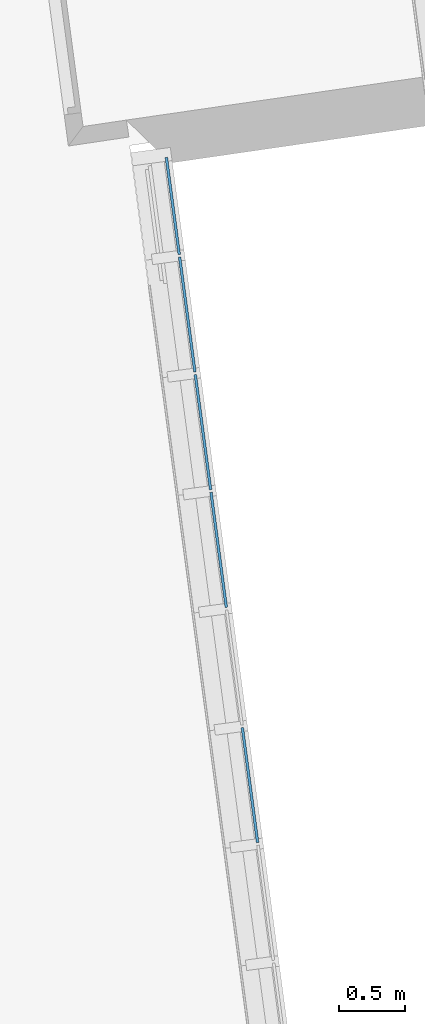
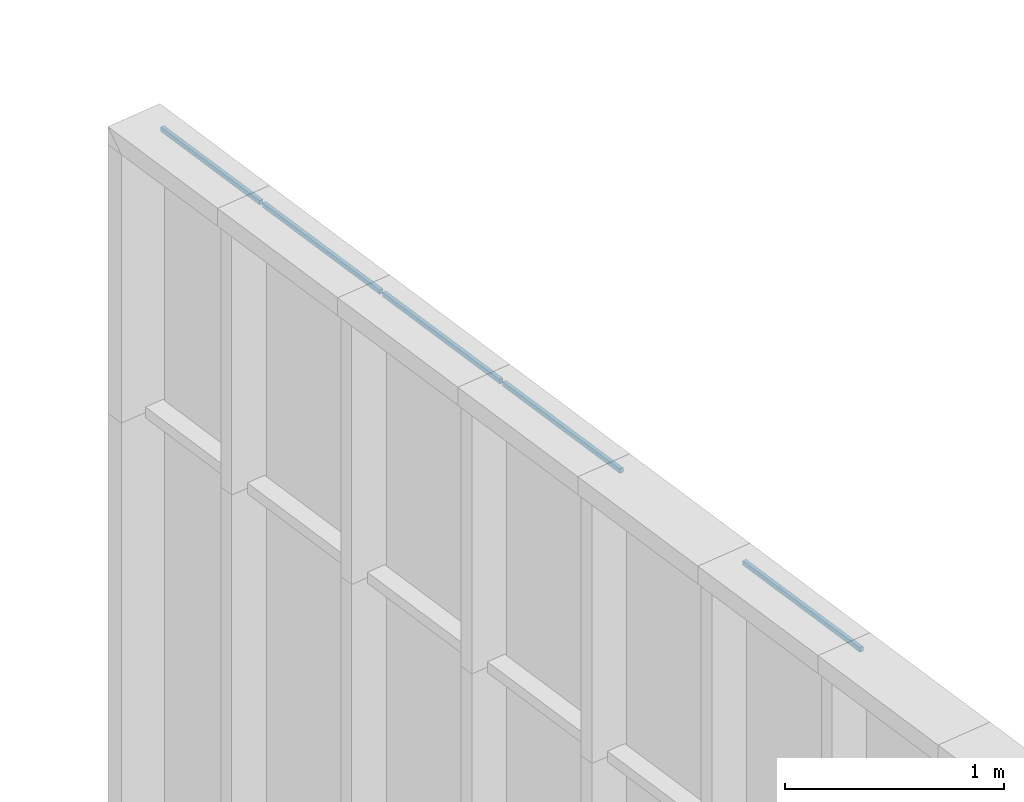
# One storey, part 6 of 17: 5 plates, 1 element without a shape of its own.
"""IFC2X3 building model written with IfcOpenShell, lengths in metres."""

from ifc_helpers import new_model, entity, si_unit, converted_unit, money_unit, direction, frame, origin_with_axes, place, context, subcontext, project, spatial, polyline, outline, extrude, material, type_object, element, aggregate, save


model = new_model("IFC2X3")

# Units and contexts
model_context = context("Model", 3, precision=1e-05, world=origin_with_axes(), true_north=direction((0.0, 1.0)))
body_context = subcontext(model_context, "Body", "Model", "MODEL_VIEW")
ifc_project = project(units=[si_unit("LENGTHUNIT", "METRE"), si_unit("AREAUNIT", "SQUARE_METRE"), si_unit("VOLUMEUNIT", "CUBIC_METRE"), converted_unit("PLANEANGLEUNIT", "DEGREE", entity("IfcPlaneAngleMeasure", 0.0174532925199), si_unit("PLANEANGLEUNIT", "RADIAN"), dimensions=[0, 0, 0, 0, 0, 0, 0]), si_unit("SOLIDANGLEUNIT", "STERADIAN"), money_unit("EUR"), converted_unit("TIMEUNIT", "Year", entity("IfcTimeMeasure", 31556926.0), si_unit("TIMEUNIT", "SECOND"), dimensions=[0, 0, 0, 0, 0, 0, 0]), si_unit("MASSUNIT", "GRAM"), si_unit("THERMODYNAMICTEMPERATUREUNIT", "DEGREE_CELSIUS"), si_unit("LUMINOUSINTENSITYUNIT", "LUMEN")], contexts=[model_context])

# Site, building, storey
site_placement = place(None, origin_with_axes())
site = spatial("IfcSite", under=ifc_project, at=site_placement, Name="Undefined", CompositionType="ELEMENT")
building_placement = place(site_placement, origin_with_axes())
building = spatial("IfcBuilding", under=site, at=building_placement, Name="Undefined", CompositionType="ELEMENT")
storey_placement = place(building_placement, frame((0.0, 0.0, 9.425), z_axis=(0.0, 0.0, 1.0), x_axis=(1.0, 0.0, 0.0)))
storey = spatial("IfcBuildingStorey", under=building, at=storey_placement, Name="Mezzannine", CompositionType="ELEMENT", Elevation=9.425)

# Curtain wall, plates
curtain_wall_type = type_object("IfcCurtainWallType", Name="Type de mur-rideau", PredefinedType="NOTDEFINED")
curtain_wall_placement = place(storey_placement, frame((66.1412459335, 18.707491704, -9.32500003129), z_axis=(0.0, 0.0, 1.0), x_axis=(1.0, 0.0, 0.0)))
curtain_wall = element("IfcCurtainWall", 1, at=curtain_wall_placement, inside=storey, type_object=curtain_wall_type, Name="CurtainWall_02", ObjectType="CURTAIN WALL")
ifc_material = material(Name="Background 7019220")
plate_type_1 = type_object("IfcPlateType", Name="Panneau secondaire 880 x 25 x 20", PredefinedType="NOTDEFINED")
plate_1_placement = place(curtain_wall_placement, frame((0.475530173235, -3.56845499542, 4.25000001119), z_axis=(0.0, 0.0, 1.0), x_axis=(0.132091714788, -0.991237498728, 0.0)))
plate_1 = element("IfcPlate", 2, at=plate_1_placement, type_object=plate_type_1, material=ifc_material, Name="Panel-Dist-197", context=body_context, shape_type="SweptSolid", body=[
    extrude(outline(polyline([(0.01, 0.005), (0.89, 0.005), (0.89, 0.0299999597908), (0.01, 0.0299999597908), (0.01, 0.005)])), frame((0.45, 0.0, -0.0499999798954), z_axis=(0.0, 1.0, 0.0), x_axis=(-1.0, 0.0, 0.0)), (0.0, 0.0, 1.0), 0.02),
])
plate_2_placement = place(curtain_wall_placement, frame((0.237765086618, -1.78422749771, 4.25000001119), z_axis=(0.0, 0.0, 1.0), x_axis=(0.132091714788, -0.991237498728, 0.0)))
plate_2 = element("IfcPlate", 3, at=plate_2_placement, type_object=plate_type_1, material=ifc_material, Name="Panel-Dist-199", context=body_context, shape_type="SweptSolid", body=[
    extrude(outline(polyline([(0.01, 0.005), (0.89, 0.005), (0.89, 0.0299999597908), (0.01, 0.0299999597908), (0.01, 0.005)])), frame((0.45, 0.0, -0.0499999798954), z_axis=(0.0, 1.0, 0.0), x_axis=(-1.0, 0.0, 0.0)), (0.0, 0.0, 1.0), 0.02),
])
plate_3_placement = place(curtain_wall_placement, frame((0.0, 0.0, 4.25000001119), z_axis=(0.0, 0.0, 1.0), x_axis=(0.132091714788, -0.991237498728, 0.0)))
plate_3 = element("IfcPlate", 4, at=plate_3_placement, type_object=plate_type_1, material=ifc_material, Name="Panel-Dist-201", context=body_context, shape_type="SweptSolid", body=[
    extrude(outline(polyline([(0.01, 0.005), (0.89, 0.005), (0.89, 0.0299999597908), (0.01, 0.0299999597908), (0.01, 0.005)])), frame((0.45, 0.0, -0.0499999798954), z_axis=(0.0, 1.0, 0.0), x_axis=(-1.0, 0.0, 0.0)), (0.0, 0.0, 1.0), 0.02),
])
plate_4_placement = place(curtain_wall_placement, frame((0.118882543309, -0.892113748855, 4.25000001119), z_axis=(0.0, 0.0, 1.0), x_axis=(0.132091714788, -0.991237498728, 0.0)))
plate_4 = element("IfcPlate", 5, at=plate_4_placement, type_object=plate_type_1, material=ifc_material, Name="Panel-Dist-200", context=body_context, shape_type="SweptSolid", body=[
    extrude(outline(polyline([(0.01, 0.005), (0.89, 0.005), (0.89, 0.0299999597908), (0.01, 0.0299999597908), (0.01, 0.005)])), frame((0.45, 0.0, -0.0499999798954), z_axis=(0.0, 1.0, 0.0), x_axis=(-1.0, 0.0, 0.0)), (0.0, 0.0, 1.0), 0.02),
])
plate_type_2 = type_object("IfcPlateType", Name="Panneau secondaire 743 x 25 x 20", PredefinedType="NOTDEFINED")
plate_5_placement = place(curtain_wall_placement, frame((-0.113776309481, 0.853795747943, 4.25000003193), z_axis=(0.0, 0.0, 1.0), x_axis=(0.132091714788, -0.991237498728, 0.0)))
plate_5 = element("IfcPlate", 6, at=plate_5_placement, type_object=plate_type_2, material=ifc_material, Name="Panel-Dist-202", context=body_context, shape_type="SweptSolid", body=[
    extrude(outline(polyline([(0.01, 0.005), (0.752686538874, 0.005), (0.752686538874, 0.0300000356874), (0.01, 0.0299999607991), (0.01, 0.005)])), frame((0.411343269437, 0.0, -0.0500000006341), z_axis=(0.0, 1.0, 0.0), x_axis=(-1.0, 0.0, 0.0)), (0.0, 0.0, 1.0), 0.02),
])
aggregate(curtain_wall, [plate_1, plate_2, plate_5, plate_3, plate_4])

save(model, "model.ifc")
